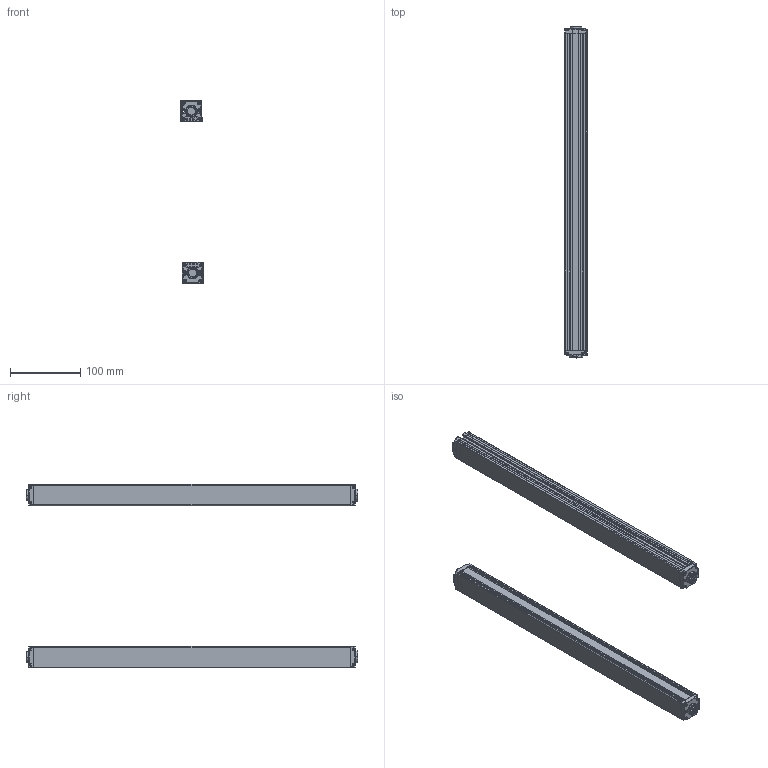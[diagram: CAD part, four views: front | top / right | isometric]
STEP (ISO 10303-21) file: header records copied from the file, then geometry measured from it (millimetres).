
FILE_DESCRIPTION (( 'STEP AP203' ), '1' );
FILE_NAME ('ZDA2220-450.STEP', '2022-08-30T07:30:51', ( 'Windows 蚚誧' ), ( 'Organization' ), 'SwSTEP 2.0', 'SolidWorks 2020', '' );
FILE_SCHEMA (( 'CONFIG_CONTROL_DESIGN' ));
Length unit declared in the file: millimetre
Products named in the file (5): 錨璃10; 錨璃1; ZDA2220-450; 錨璃8; 錨璃8 - 萵掛 (2)
Assembly tree (8 placements, depth 2):
  ZDA2220-450
    錨璃1  x2
    錨璃8  x2
    錨璃8 - 萵掛 (2)  x2
    錨璃10  x2
Bounding box: 32.36 x 471.4 x 260.35 mm (x, y, z)
Volume: 292050.2 mm3; surface area: 310757 mm2
Topology: 8 solids, 8 shells, 1032 faces, 2690 edges, 1668 vertices
Faces by surface type: plane 464, cylinder 310, cone 120, bspline 58, torus 48, sphere 32
Entity records: 17901 total; most frequent: CARTESIAN_POINT 4731, ORIENTED_EDGE 2666, DIRECTION 2616, EDGE_CURVE 1333, AXIS2_PLACEMENT_3D 894, VERTEX_POINT 834, VECTOR 828, LINE 828
